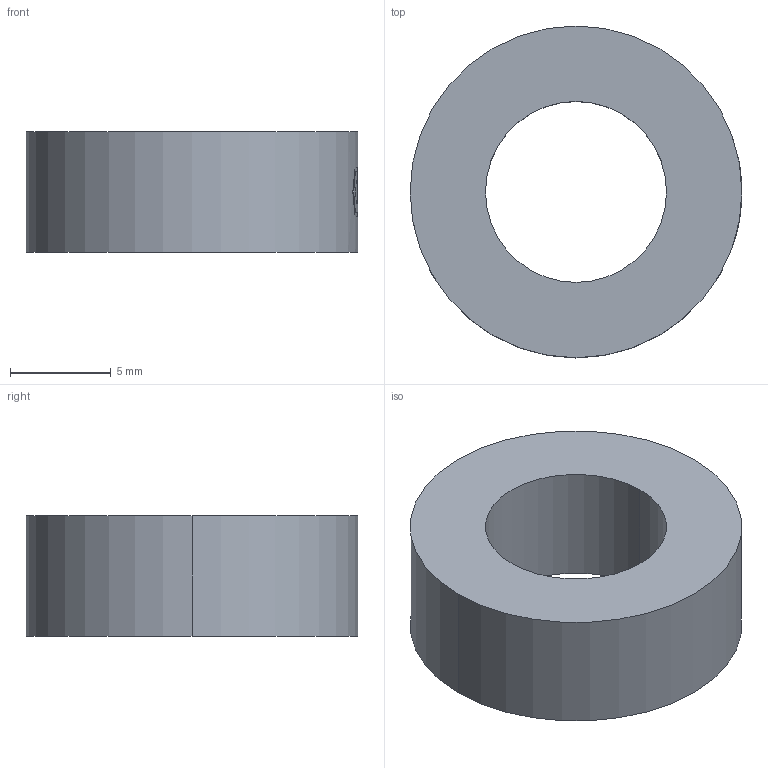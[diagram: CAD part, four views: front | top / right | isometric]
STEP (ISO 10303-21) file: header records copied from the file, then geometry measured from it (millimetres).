
FILE_DESCRIPTION (( 'STEP AP203' ), '1' );
FILE_NAME ('311-9 NEO.STEP', '2007-02-26T07:39:50', ( ' ' ), ( '' ), 'SwSTEP 2.0', 'SolidWorks 2005278', '' );
FILE_SCHEMA (( 'CONFIG_CONTROL_DESIGN' ));
Length unit declared in the file: millimetre
Products named in the file (1): 311-9 NEO
Bounding box: 16.5 x 16.5 x 6 mm (x, y, z)
Volume: 901.1 mm3; surface area: 781.8 mm2
Topology: 1 solids, 1 shells, 43 faces, 117 edges, 78 vertices
Faces by surface type: plane 36, cylinder 7
Entity records: 1468 total; most frequent: CARTESIAN_POINT 299, ORIENTED_EDGE 234, DIRECTION 221, EDGE_CURVE 117, AXIS2_PLACEMENT_3D 80, VERTEX_POINT 78, VECTOR 61, LINE 61
